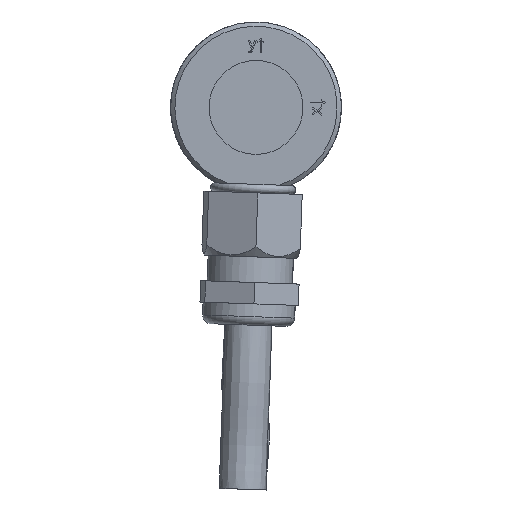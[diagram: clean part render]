
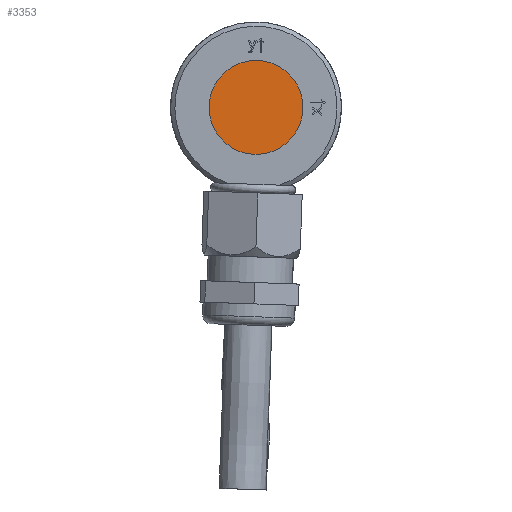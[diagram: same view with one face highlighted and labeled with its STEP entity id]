
A CAD part, left-side view. The second image highlights one B-rep face of the part: STEP entity #3353.
In plain terms, the highlighted planar face has unit normal (-1, 0, 0).
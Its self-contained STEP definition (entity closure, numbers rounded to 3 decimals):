
#1268=PLANE('',#3530);
#1518=VERTEX_POINT('',#4624);
#1644=CIRCLE('',#3529,5.5);
#1912=EDGE_CURVE('',#1518,#1518,#1644,.T.);
#2478=ORIENTED_EDGE('',*,*,#1912,.T.);
#2961=EDGE_LOOP('',(#2478));
#3168=FACE_BOUND('',#2961,.T.);
#3353=ADVANCED_FACE('',(#3168),#1268,.F.);
#3529=AXIS2_PLACEMENT_3D('',#4623,#5545,#5546);
#3530=AXIS2_PLACEMENT_3D('',#4625,#5547,$);
#4623=CARTESIAN_POINT('',(-29.,0.,0.));
#4624=CARTESIAN_POINT('',(-29.,0.,-5.5));
#4625=CARTESIAN_POINT('',(-29.,0.,0.));
#5545=DIRECTION('',(-1.,0.,0.));
#5546=DIRECTION('',(0.,0.,-5.5));
#5547=DIRECTION('',(1.,0.,0.));
